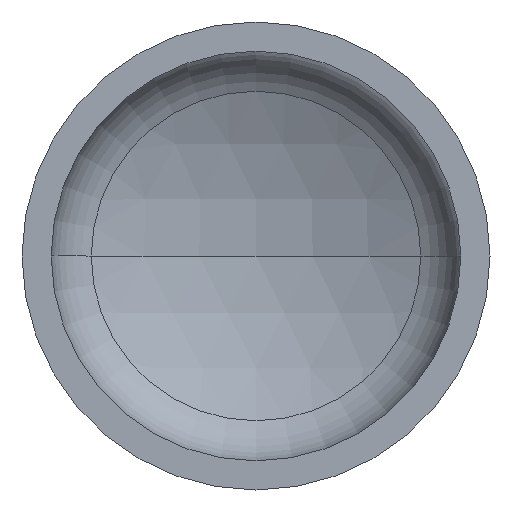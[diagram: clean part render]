
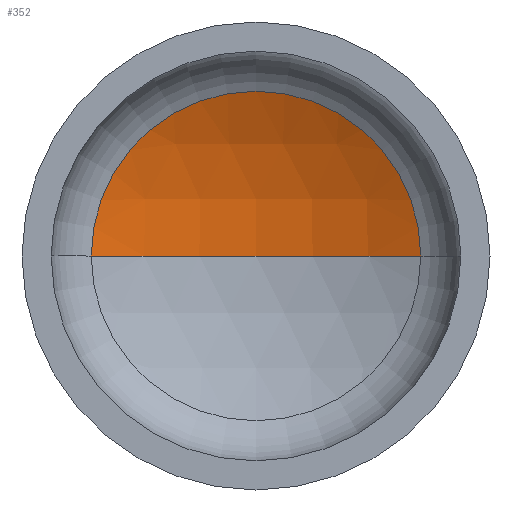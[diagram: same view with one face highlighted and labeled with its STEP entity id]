
A CAD part, front view. The second image highlights one B-rep face of the part: STEP entity #352.
In plain terms, the highlighted spherical face has radius 1360 mm.
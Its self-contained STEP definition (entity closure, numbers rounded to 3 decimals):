
#2 = AXIS2_PLACEMENT_3D ( 'NONE', #404, #270, #261 ) ;
#3 = ORIENTED_EDGE ( 'NONE', *, *, #164, .T. ) ;
#11 = EDGE_LOOP ( 'NONE', ( #47, #36, #3 ) ) ;
#18 = AXIS2_PLACEMENT_3D ( 'NONE', #135, #100, #136 ) ;
#23 = AXIS2_PLACEMENT_3D ( 'NONE', #171, #219, #335 ) ;
#27 = VERTEX_POINT ( 'NONE', #244 ) ;
#36 = ORIENTED_EDGE ( 'NONE', *, *, #349, .T. ) ;
#37 = VERTEX_POINT ( 'NONE', #282 ) ;
#47 = ORIENTED_EDGE ( 'NONE', *, *, #353, .F. ) ;
#52 = VERTEX_POINT ( 'NONE', #256 ) ;
#57 = CIRCLE ( 'NONE', #23, 1360. ) ;
#87 = AXIS2_PLACEMENT_3D ( 'NONE', #252, #250, #272 ) ;
#100 = DIRECTION ( 'NONE',  ( 0., 0., 1. ) ) ;
#135 = CARTESIAN_POINT ( 'NONE',  ( 0., -912.798, 0. ) ) ;
#136 = DIRECTION ( 'NONE',  ( 1., 0., 0. ) ) ;
#145 = CIRCLE ( 'NONE', #87, 598.4 ) ;
#164 = EDGE_CURVE ( 'NONE', #27, #52, #145, .T. ) ;
#171 = CARTESIAN_POINT ( 'NONE',  ( 0., -912.798, 0. ) ) ;
#182 = CIRCLE ( 'NONE', #18, 1360. ) ;
#190 = FACE_OUTER_BOUND ( 'NONE', #11, .T. ) ;
#219 = DIRECTION ( 'NONE',  ( 0., 0., -1. ) ) ;
#244 = CARTESIAN_POINT ( 'NONE',  ( 598.4, 308.479, 0. ) ) ;
#250 = DIRECTION ( 'NONE',  ( 0., -1., 0. ) ) ;
#252 = CARTESIAN_POINT ( 'NONE',  ( 0., 308.479, 0. ) ) ;
#256 = CARTESIAN_POINT ( 'NONE',  ( -598.4, 308.479, 0. ) ) ;
#261 = DIRECTION ( 'NONE',  ( -1., 0., 0. ) ) ;
#270 = DIRECTION ( 'NONE',  ( 0., 0., -1. ) ) ;
#272 = DIRECTION ( 'NONE',  ( 1., 0., 0. ) ) ;
#282 = CARTESIAN_POINT ( 'NONE',  ( 0., 447.202, 0. ) ) ;
#305 = SPHERICAL_SURFACE ( 'NONE', #2, 1360. ) ;
#335 = DIRECTION ( 'NONE',  ( -1., 0., 0. ) ) ;
#349 = EDGE_CURVE ( 'NONE', #37, #27, #57, .T. ) ;
#352 = ADVANCED_FACE ( 'NONE', ( #190 ), #305, .F. ) ;
#353 = EDGE_CURVE ( 'NONE', #37, #52, #182, .T. ) ;
#404 = CARTESIAN_POINT ( 'NONE',  ( 0., -912.798, 0. ) ) ;
